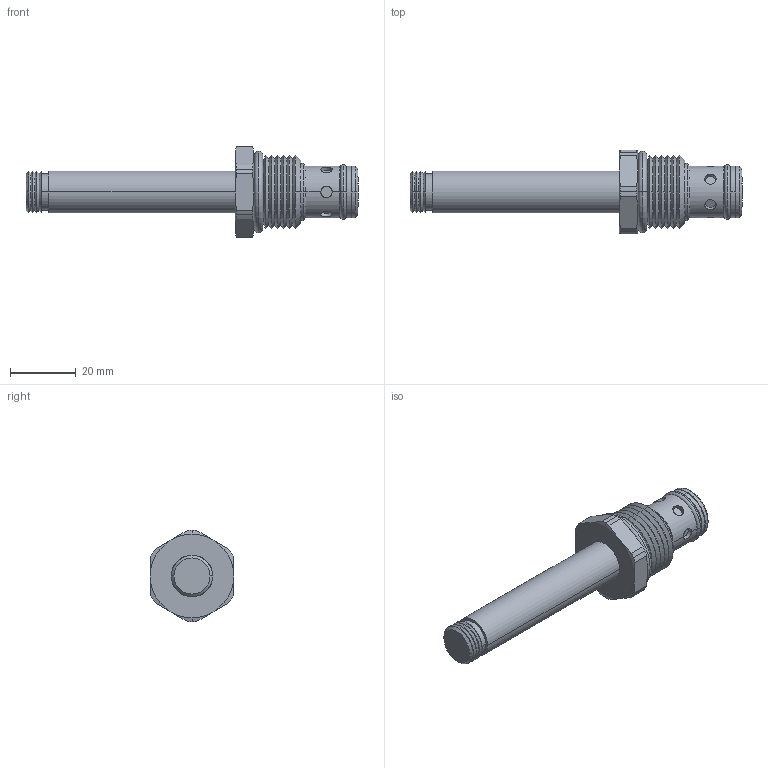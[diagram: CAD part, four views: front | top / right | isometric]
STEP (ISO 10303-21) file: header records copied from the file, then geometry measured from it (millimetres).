
FILE_DESCRIPTION((''),'2;1');
FILE_NAME('U:\Solid model CD\Solid model full\Solenoid\STEP\DES2C00-3D Full.stp','2008-06-23T08:20:15',('Dan'),(''),'Autodesk Inventor 9','Autodesk Inventor 9','');
FILE_SCHEMA(('AUTOMOTIVE_DESIGN { 1 0 10303 214 1 1 1 1 }'));
Length unit declared in the file: inch
Products named in the file (5): DES2C00-3D Full; DES2C00-3D Full1; DES2C00-3D Full2; DES2C00-3D Full3; DES2C00-3D Full4
Assembly tree (4 placements, depth 2):
  DES2C00-3D Full
    DES2C00-3D Full1
    DES2C00-3D Full2
    DES2C00-3D Full3
    DES2C00-3D Full4
Bounding box: 100.86 x 25.4 x 27.76 mm (x, y, z)
Volume: 19205.6 mm3; surface area: 7697.6 mm2
Topology: 4 solids, 4 shells, 154 faces, 348 edges, 210 vertices
Faces by surface type: cylinder 56, cone 54, plane 24, bspline 12, torus 8
Entity records: 5082 total; most frequent: CARTESIAN_POINT 1571, DIRECTION 748, ORIENTED_EDGE 696, EDGE_CURVE 348, AXIS2_PLACEMENT_3D 319, VERTEX_POINT 210, CIRCLE 168, EDGE_LOOP 168
